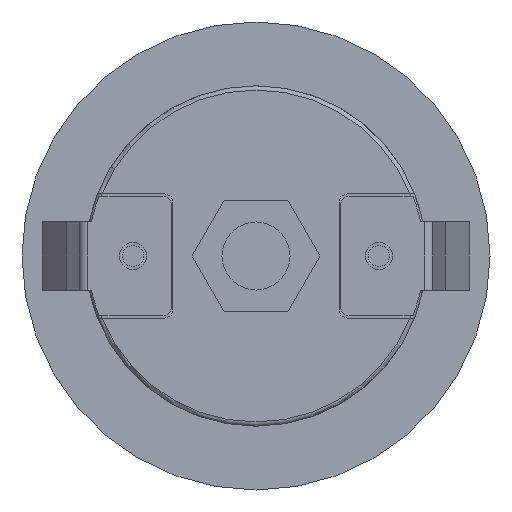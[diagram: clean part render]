
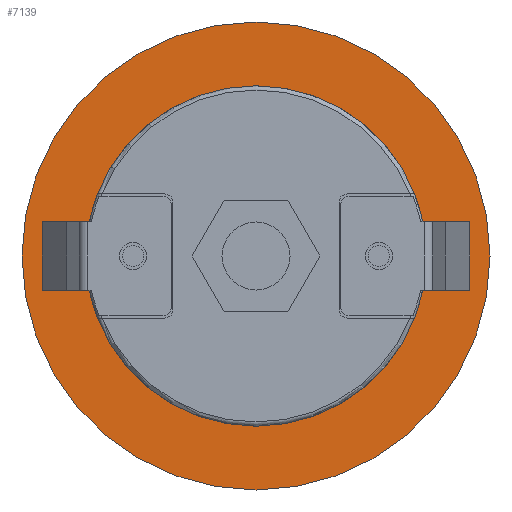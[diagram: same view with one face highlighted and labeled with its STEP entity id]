
A CAD part, front view. The second image highlights one B-rep face of the part: STEP entity #7139.
In plain terms, the highlighted planar face has unit normal (0, -1, 0) as drawn and (0, 0, 1) by its records, which use the part's own axes.
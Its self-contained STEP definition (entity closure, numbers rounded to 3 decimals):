
#6727=CARTESIAN_POINT('',(0.,0.,-14.));
#6728=DIRECTION('',(0.,0.,-1.));
#6729=DIRECTION('',(1.,0.,0.));
#6730=AXIS2_PLACEMENT_3D('',#6727,#6728,#6729);
#6732=CARTESIAN_POINT('',(0.,0.,-14.));
#6733=DIRECTION('',(0.,0.,-1.));
#6734=DIRECTION('',(-1.,0.,0.));
#6735=AXIS2_PLACEMENT_3D('',#6732,#6733,#6734);
#6737=CARTESIAN_POINT('',(0.,0.,-14.));
#6738=DIRECTION('',(0.,0.,1.));
#6739=DIRECTION('',(1.,0.,0.));
#6740=AXIS2_PLACEMENT_3D('',#6737,#6738,#6739);
#6742=CARTESIAN_POINT('',(0.,0.,-14.));
#6743=DIRECTION('',(0.,0.,1.));
#6744=DIRECTION('',(-1.,0.,0.));
#6745=AXIS2_PLACEMENT_3D('',#6742,#6743,#6744);
#6860=CARTESIAN_POINT('',(20.,0.,-14.));
#6862=VERTEX_POINT('',#6860);
#6864=CARTESIAN_POINT('',(-20.,0.,-14.));
#6865=VERTEX_POINT('',#6864);
#6906=CARTESIAN_POINT('',(27.5,0.,-14.));
#6907=VERTEX_POINT('',#6906);
#6908=CARTESIAN_POINT('',(-27.5,0.,-14.));
#6909=VERTEX_POINT('',#6908);
#7126=CARTESIAN_POINT('',(0.,0.,-14.));
#7127=DIRECTION('',(0.,0.,-1.));
#7128=DIRECTION('',(1.,0.,0.));
#7129=AXIS2_PLACEMENT_3D('',#7126,#7127,#7128);
#7130=PLANE('',#7129);
#7131=ORIENTED_EDGE('',*,*,#7120,.T.);
#7132=ORIENTED_EDGE('',*,*,#7105,.T.);
#7133=EDGE_LOOP('',(#7131,#7132));
#7134=FACE_OUTER_BOUND('',#7133,.F.);
#7135=ORIENTED_EDGE('',*,*,#6955,.T.);
#7136=ORIENTED_EDGE('',*,*,#6937,.T.);
#7137=EDGE_LOOP('',(#7135,#7136));
#7138=FACE_BOUND('',#7137,.F.);
#7139=ADVANCED_FACE('',(#7134,#7138),#7130,.F.);
#6731=CIRCLE('',#6730,27.5);
#6736=CIRCLE('',#6735,27.5);
#6741=CIRCLE('',#6740,20.);
#6746=CIRCLE('',#6745,20.);
#6937=EDGE_CURVE('',#6865,#6862,#6746,.T.);
#6955=EDGE_CURVE('',#6862,#6865,#6741,.T.);
#7105=EDGE_CURVE('',#6909,#6907,#6736,.T.);
#7120=EDGE_CURVE('',#6907,#6909,#6731,.T.);
